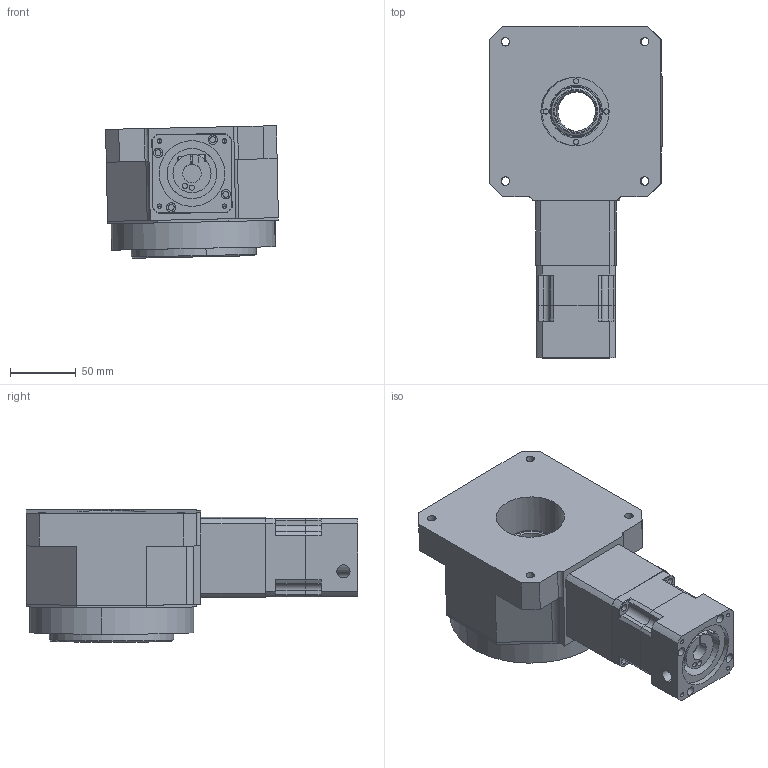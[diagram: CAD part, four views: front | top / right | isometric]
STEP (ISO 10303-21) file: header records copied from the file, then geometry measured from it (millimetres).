
FILE_DESCRIPTION (( 'STEP AP203' ), '1' );
FILE_NAME ('HTM130-L1-14-50-70.STEP', '2024-07-25T08:50:22', ( 'Windows User' ), ( 'P R C' ), 'SwSTEP 2.0', 'SolidWorks 2016', '' );
FILE_SCHEMA (( 'CONFIG_CONTROL_DESIGN' ));
Length unit declared in the file: millimetre
Products named in the file (15): 60-粣創; HTM130俋倛芞奻裔啣_72T; HTM-L1-郪蚾璃; HTM130俋倛芞狟裔啣; 60訇喘綴楊擘; HTM130-L1-()-P1-14-50-M4; 邧埴瑩 5x5x20; HTM130-L1-3（斜齿）; 60-怀堤粣; 囀鞠褒蹟佪-M5℅16; HTM130-L1-14-50-70; 60-喘謫; 60-͹̨; 60-眊极; 60-蚐猾
Assembly tree (14 placements, depth 4):
  HTM130-L1-14-50-70
    HTM130-L1-()-P1-14-50-M4
      HTM130俋倛芞奻裔啣_72T
      HTM130俋倛芞狟裔啣
      邧埴瑩 5x5x20
      囀鞠褒蹟佪-M5℅16
    HTM130-L1-3（斜齿）
      HTM-L1-郪蚾璃
        60-怀堤粣
        60-喘謫
        60-͹̨
        60-眊极
        60-蚐猾
        60-粣創
      60訇喘綴楊擘
Bounding box: 131.52 x 252.5 x 100.87 mm (x, y, z)
Volume: 1455557.2 mm3; surface area: 283560.8 mm2
Topology: 11 solids, 11 shells, 728 faces, 1850 edges, 1146 vertices
Faces by surface type: cylinder 395, plane 174, cone 151, torus 8
Entity records: 24155 total; most frequent: CARTESIAN_POINT 4489, DIRECTION 4098, ORIENTED_EDGE 3504, EDGE_CURVE 1752, AXIS2_PLACEMENT_3D 1645, VERTEX_POINT 1146, EDGE_LOOP 956, CIRCLE 897
